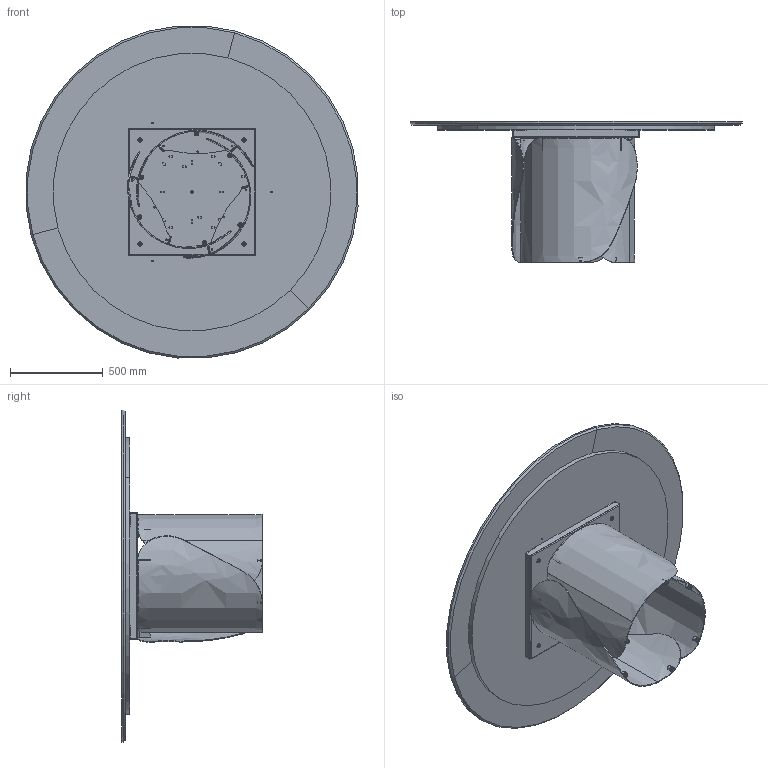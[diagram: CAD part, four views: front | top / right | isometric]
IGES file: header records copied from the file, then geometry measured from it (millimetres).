
Start section: SolidWorks IGES file using analytic representation for surfaces
Global section: file name: Y:\eforma\TECNICO\SOLIDWORKS\E-FORMA\1-TAVOLI\ONDA\02 parts\ON13M.IGS; native system: SolidWorks 2022; preprocessor: SolidWorks 2022; author: eforma.tech; date: 240806.153257; units: millimetre
Bounding box: 1793.15 x 761 x 1793.15 mm (x, y, z)
Volume: 105539948.3 mm3; surface area: 13573660.2 mm2
Topology: 65 solids, 65 shells, 1750 faces, 4128 edges, 2530 vertices
Faces by surface type: revolution 1004, plane 686, bspline 60
